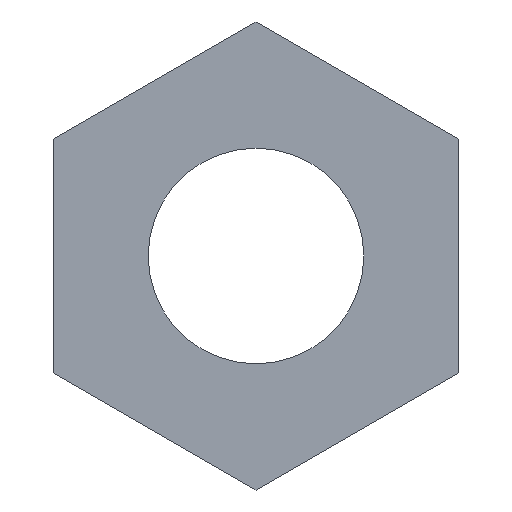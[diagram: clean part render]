
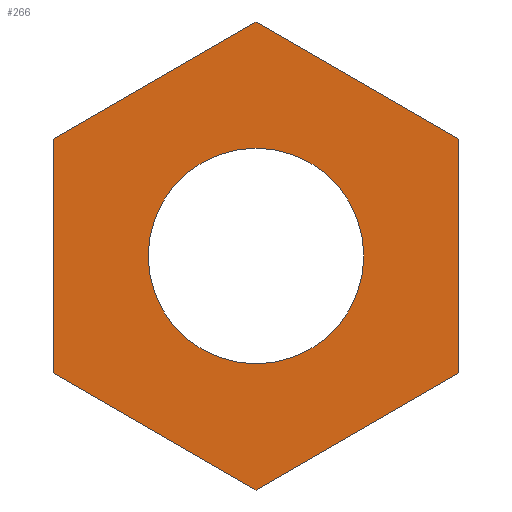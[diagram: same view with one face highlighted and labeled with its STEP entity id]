
A CAD part, front view. The second image highlights one B-rep face of the part: STEP entity #266.
In plain terms, the highlighted planar face has unit normal (0, -1, 0).
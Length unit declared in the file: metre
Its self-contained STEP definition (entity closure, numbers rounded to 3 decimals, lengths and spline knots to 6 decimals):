
#26=LINE('',#427,#50);
#29=LINE('',#433,#53);
#32=LINE('',#439,#56);
#35=LINE('',#444,#59);
#37=LINE('',#448,#61);
#38=LINE('',#450,#62);
#50=VECTOR('',#347,1.);
#53=VECTOR('',#352,1.);
#56=VECTOR('',#357,1.);
#59=VECTOR('',#362,1.);
#61=VECTOR('',#366,1.);
#62=VECTOR('',#369,1.);
#108=ORIENTED_EDGE('',*,*,#160,.F.);
#109=ORIENTED_EDGE('',*,*,#147,.T.);
#110=ORIENTED_EDGE('',*,*,#150,.T.);
#111=ORIENTED_EDGE('',*,*,#153,.T.);
#112=ORIENTED_EDGE('',*,*,#156,.T.);
#113=ORIENTED_EDGE('',*,*,#158,.T.);
#114=ORIENTED_EDGE('',*,*,#159,.T.);
#147=EDGE_CURVE('',#177,#176,#26,.T.);
#150=EDGE_CURVE('',#176,#178,#29,.T.);
#153=EDGE_CURVE('',#178,#180,#32,.T.);
#156=EDGE_CURVE('',#180,#181,#35,.T.);
#158=EDGE_CURVE('',#181,#182,#37,.T.);
#159=EDGE_CURVE('',#182,#177,#38,.T.);
#160=EDGE_CURVE('',#183,#183,#192,.T.);
#176=VERTEX_POINT('',#426);
#177=VERTEX_POINT('',#428);
#178=VERTEX_POINT('',#432);
#180=VERTEX_POINT('',#438);
#181=VERTEX_POINT('',#443);
#182=VERTEX_POINT('',#447);
#183=VERTEX_POINT('',#453);
#192=CIRCLE('',#302,0.00211);
#208=EDGE_LOOP('',(#108));
#209=EDGE_LOOP('',(#109,#110,#111,#112,#113,#114));
#230=FACE_BOUND('',#208,.T.);
#231=FACE_BOUND('',#209,.T.);
#252=PLANE('',#301);
#266=ADVANCED_FACE('',(#230,#231),#252,.T.);
#301=AXIS2_PLACEMENT_3D('',#451,#370,#371);
#302=AXIS2_PLACEMENT_3D('',#452,#372,#373);
#347=DIRECTION('',(0.866,0.,0.5));
#352=DIRECTION('',(0.,0.,1.));
#357=DIRECTION('',(-0.866,0.,0.5));
#362=DIRECTION('',(-0.866,0.,-0.5));
#366=DIRECTION('',(0.,0.,-1.));
#369=DIRECTION('',(0.866,0.,-0.5));
#370=DIRECTION('',(0.,-1.,0.));
#371=DIRECTION('',(1.,0.,0.));
#372=DIRECTION('',(0.,-1.,0.));
#373=DIRECTION('',(0.,0.,-1.));
#426=CARTESIAN_POINT('',(0.003965,-0.02964,-0.002289));
#427=CARTESIAN_POINT('',(0.001983,-0.02964,-0.003434));
#428=CARTESIAN_POINT('',(0.,-0.02964,-0.004578));
#432=CARTESIAN_POINT('',(0.003965,-0.02964,0.002289));
#433=CARTESIAN_POINT('',(0.003965,-0.02964,0.));
#438=CARTESIAN_POINT('',(0.,-0.02964,0.004578));
#439=CARTESIAN_POINT('',(0.001983,-0.02964,0.003434));
#443=CARTESIAN_POINT('',(-0.003965,-0.02964,0.002289));
#444=CARTESIAN_POINT('',(-0.001983,-0.02964,0.003434));
#447=CARTESIAN_POINT('',(-0.003965,-0.02964,-0.002289));
#448=CARTESIAN_POINT('',(-0.003965,-0.02964,0.));
#450=CARTESIAN_POINT('',(-0.001983,-0.02964,-0.003434));
#451=CARTESIAN_POINT('',(0.,-0.02964,0.));
#452=CARTESIAN_POINT('',(0.,-0.02964,0.));
#453=CARTESIAN_POINT('',(0.,-0.02964,-0.00211));
